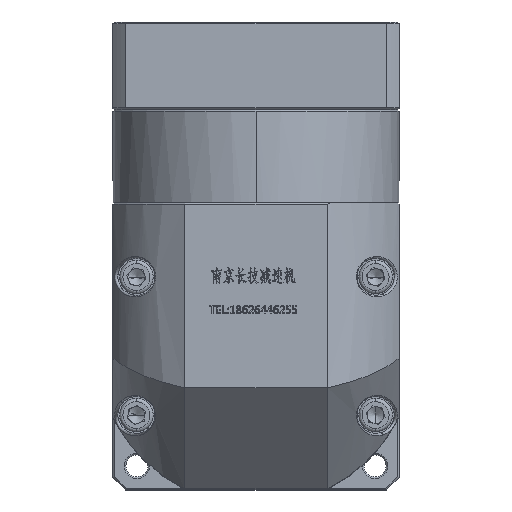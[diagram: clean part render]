
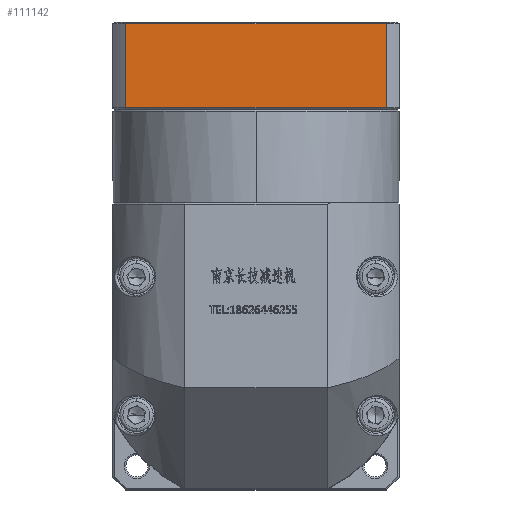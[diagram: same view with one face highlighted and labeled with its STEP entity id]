
A CAD part, top view. The second image highlights one B-rep face of the part: STEP entity #111142.
In plain terms, the highlighted planar face has unit normal (0, 0, 1).
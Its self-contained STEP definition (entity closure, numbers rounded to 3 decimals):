
#2311 = CARTESIAN_POINT ( 'NONE',  ( -40.541, 128.665, 120.402 ) ) ;
#5297 = VECTOR ( 'NONE', #26505, 1000. ) ;
#13157 = VERTEX_POINT ( 'NONE', #58271 ) ;
#16163 = DIRECTION ( 'NONE',  ( 1., 0., 0. ) ) ;
#21765 = EDGE_LOOP ( 'NONE', ( #62468, #70575, #44070, #107272 ) ) ;
#22299 = CARTESIAN_POINT ( 'NONE',  ( -44.311, 103.665, 120.402 ) ) ;
#23224 = VECTOR ( 'NONE', #16163, 1000. ) ;
#23691 = VERTEX_POINT ( 'NONE', #50814 ) ;
#26282 = DIRECTION ( 'NONE',  ( 0., -1., 0. ) ) ;
#26505 = DIRECTION ( 'NONE',  ( 0., 1., 0. ) ) ;
#27083 = CARTESIAN_POINT ( 'NONE',  ( -121.771, 129.165, 120.402 ) ) ;
#44070 = ORIENTED_EDGE ( 'NONE', *, *, #76050, .F. ) ;
#44912 = DIRECTION ( 'NONE',  ( 0., 0., -1. ) ) ;
#50814 = CARTESIAN_POINT ( 'NONE',  ( -44.311, 128.665, 120.402 ) ) ;
#52325 = AXIS2_PLACEMENT_3D ( 'NONE', #127051, #44912, #140820 ) ;
#52986 = CARTESIAN_POINT ( 'NONE',  ( -40.541, 103.665, 120.402 ) ) ;
#58271 = CARTESIAN_POINT ( 'NONE',  ( -121.771, 128.665, 120.402 ) ) ;
#62468 = ORIENTED_EDGE ( 'NONE', *, *, #106579, .T. ) ;
#64814 = EDGE_CURVE ( 'NONE', #23691, #156929, #156654, .T. ) ;
#65600 = VERTEX_POINT ( 'NONE', #153452 ) ;
#70575 = ORIENTED_EDGE ( 'NONE', *, *, #64814, .F. ) ;
#75567 = LINE ( 'NONE', #52986, #107797 ) ;
#76050 = EDGE_CURVE ( 'NONE', #13157, #23691, #91942, .T. ) ;
#80867 = CARTESIAN_POINT ( 'NONE',  ( -44.311, -61.096, 120.402 ) ) ;
#91942 = LINE ( 'NONE', #2311, #23224 ) ;
#103189 = VECTOR ( 'NONE', #26282, 1000. ) ;
#106536 = FACE_OUTER_BOUND ( 'NONE', #21765, .T. ) ;
#106579 = EDGE_CURVE ( 'NONE', #65600, #156929, #75567, .T. ) ;
#107272 = ORIENTED_EDGE ( 'NONE', *, *, #112001, .F. ) ;
#107797 = VECTOR ( 'NONE', #175913, 1000. ) ;
#110500 = LINE ( 'NONE', #27083, #5297 ) ;
#111142 = ADVANCED_FACE ( 'NONE', ( #106536 ), #139625, .F. ) ;
#112001 = EDGE_CURVE ( 'NONE', #65600, #13157, #110500, .T. ) ;
#127051 = CARTESIAN_POINT ( 'NONE',  ( -40.541, 129.165, 120.402 ) ) ;
#139625 = PLANE ( 'NONE',  #52325 ) ;
#140820 = DIRECTION ( 'NONE',  ( -1., 0., 0. ) ) ;
#153452 = CARTESIAN_POINT ( 'NONE',  ( -121.771, 103.665, 120.402 ) ) ;
#156654 = LINE ( 'NONE', #80867, #103189 ) ;
#156929 = VERTEX_POINT ( 'NONE', #22299 ) ;
#175913 = DIRECTION ( 'NONE',  ( 1., 0., 0. ) ) ;
